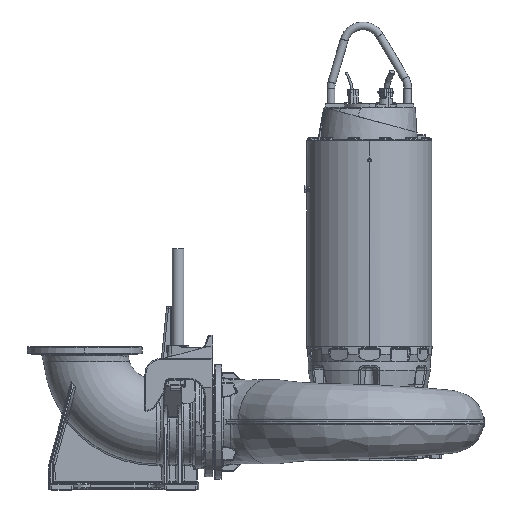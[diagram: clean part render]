
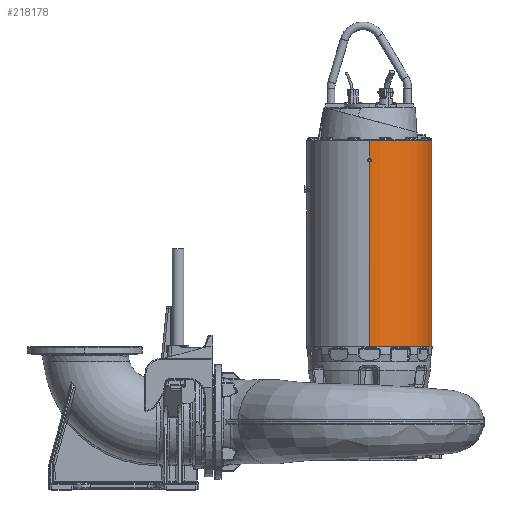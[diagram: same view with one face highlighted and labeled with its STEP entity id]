
A CAD part, top view. The second image highlights one B-rep face of the part: STEP entity #218178.
In plain terms, the highlighted cylindrical face has radius 322 mm (diameter 644 mm), a partial arc.
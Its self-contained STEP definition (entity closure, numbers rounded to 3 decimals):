
#10908 = CARTESIAN_POINT ( 'NONE',  ( 0., 1040., 322. ) ) ;
#12123 = CARTESIAN_POINT ( 'NONE',  ( 9.5, 945.485, 321.86 ) ) ;
#12270 = CARTESIAN_POINT ( 'NONE',  ( 0., -20., -322. ) ) ;
#17220 = DIRECTION ( 'NONE',  ( 0., -1., 0. ) ) ;
#20030 =( BOUNDED_CURVE ( )  B_SPLINE_CURVE ( 3, ( #270482, #35767, #250633, #107752 ),
 .UNSPECIFIED., .F., .F. ) 
 B_SPLINE_CURVE_WITH_KNOTS ( ( 4, 4 ),
 ( 1.571, 1.6 ),
 .UNSPECIFIED. ) 
 CURVE ( )  GEOMETRIC_REPRESENTATION_ITEM ( )  RATIONAL_B_SPLINE_CURVE ( ( 1., 1., 1., 1. ) ) 
 REPRESENTATION_ITEM ( '' )  );
#20149 = DIRECTION ( 'NONE',  ( 0., 0., -1. ) ) ;
#24479 = CARTESIAN_POINT ( 'NONE',  ( 9.5, 934.515, -321.86 ) ) ;
#31219 = VECTOR ( 'NONE', #174001, 1000. ) ;
#33915 = EDGE_CURVE ( 'NONE', #62103, #225753, #128674, .T. ) ;
#35767 = CARTESIAN_POINT ( 'NONE',  ( 3.167, 949.141, -322. ) ) ;
#37047 = VECTOR ( 'NONE', #17220, 1000. ) ;
#39786 = EDGE_CURVE ( 'NONE', #163464, #229225, #257529, .T. ) ;
#45477 = VECTOR ( 'NONE', #161988, 1000. ) ;
#48391 = CARTESIAN_POINT ( 'NONE',  ( 6.334, 932.687, -321.953 ) ) ;
#48560 = CARTESIAN_POINT ( 'NONE',  ( 9.5, 945.485, -321.86 ) ) ;
#50380 = CARTESIAN_POINT ( 'NONE',  ( 9.5, 934.515, 321.86 ) ) ;
#55255 = CARTESIAN_POINT ( 'NONE',  ( 0., 0., -322. ) ) ;
#58401 = LINE ( 'NONE', #295535, #114342 ) ;
#58677 = EDGE_LOOP ( 'NONE', ( #204906, #197452, #126521, #115195, #249933, #59584, #63180, #111622, #66770, #218719, #207356, #162347 ) ) ;
#59584 = ORIENTED_EDGE ( 'NONE', *, *, #241784, .T. ) ;
#62103 = VERTEX_POINT ( 'NONE', #253933 ) ;
#63180 = ORIENTED_EDGE ( 'NONE', *, *, #171702, .F. ) ;
#66770 = ORIENTED_EDGE ( 'NONE', *, *, #283749, .F. ) ;
#73392 = CARTESIAN_POINT ( 'NONE',  ( 6.334, 932.687, 321.953 ) ) ;
#80141 = VERTEX_POINT ( 'NONE', #48560 ) ;
#81580 =( BOUNDED_CURVE ( )  B_SPLINE_CURVE ( 3, ( #176734, #225888, #154743, #12123 ),
 .UNSPECIFIED., .F., .T. ) 
 B_SPLINE_CURVE_WITH_KNOTS ( ( 4, 4 ),
 ( 1.571, 1.6 ),
 .UNSPECIFIED. ) 
 CURVE ( )  GEOMETRIC_REPRESENTATION_ITEM ( )  RATIONAL_B_SPLINE_CURVE ( ( 1., 1., 1., 1. ) ) 
 REPRESENTATION_ITEM ( '' )  );
#85745 =( BOUNDED_CURVE ( )  B_SPLINE_CURVE ( 3, ( #24479, #48391, #263318, #120361 ),
 .UNSPECIFIED., .F., .F. ) 
 B_SPLINE_CURVE_WITH_KNOTS ( ( 4, 4 ),
 ( 1.541, 1.571 ),
 .UNSPECIFIED. ) 
 CURVE ( )  GEOMETRIC_REPRESENTATION_ITEM ( )  RATIONAL_B_SPLINE_CURVE ( ( 1., 1., 1., 1. ) ) 
 REPRESENTATION_ITEM ( '' )  );
#87764 = EDGE_CURVE ( 'NONE', #229225, #244058, #58401, .T. ) ;
#91793 = CIRCLE ( 'NONE', #187628, 322. ) ;
#95064 = VERTEX_POINT ( 'NONE', #12270 ) ;
#95569 = CARTESIAN_POINT ( 'NONE',  ( 0., 0., 322. ) ) ;
#100797 = DIRECTION ( 'NONE',  ( 0., -1., 0. ) ) ;
#106994 = CARTESIAN_POINT ( 'NONE',  ( 0., 0., -322. ) ) ;
#107752 = CARTESIAN_POINT ( 'NONE',  ( 9.5, 945.485, -321.86 ) ) ;
#108918 = LINE ( 'NONE', #138149, #45477 ) ;
#110847 = DIRECTION ( 'NONE',  ( 0., -1., 0. ) ) ;
#111622 = ORIENTED_EDGE ( 'NONE', *, *, #187780, .F. ) ;
#113996 = CARTESIAN_POINT ( 'NONE',  ( 0., 0., 0. ) ) ;
#114342 = VECTOR ( 'NONE', #110847, 1000. ) ;
#115195 = ORIENTED_EDGE ( 'NONE', *, *, #295654, .T. ) ;
#118709 = CARTESIAN_POINT ( 'NONE',  ( 0., -20., 322. ) ) ;
#119578 = DIRECTION ( 'NONE',  ( 0., -1., 0. ) ) ;
#120361 = CARTESIAN_POINT ( 'NONE',  ( 0., 929.03, -322. ) ) ;
#120412 = VERTEX_POINT ( 'NONE', #236574 ) ;
#126521 = ORIENTED_EDGE ( 'NONE', *, *, #247726, .T. ) ;
#128674 =( BOUNDED_CURVE ( )  B_SPLINE_CURVE ( 3, ( #50380, #73392, #145194, #217204 ),
 .UNSPECIFIED., .F., .F. ) 
 B_SPLINE_CURVE_WITH_KNOTS ( ( 4, 4 ),
 ( 1.541, 1.571 ),
 .UNSPECIFIED. ) 
 CURVE ( )  GEOMETRIC_REPRESENTATION_ITEM ( )  RATIONAL_B_SPLINE_CURVE ( ( 1., 1., 1., 1. ) ) 
 REPRESENTATION_ITEM ( '' )  );
#130568 = VERTEX_POINT ( 'NONE', #152860 ) ;
#131951 = VERTEX_POINT ( 'NONE', #118709 ) ;
#135512 = CARTESIAN_POINT ( 'NONE',  ( 0., 1040., -322. ) ) ;
#138149 = CARTESIAN_POINT ( 'NONE',  ( 9.5, 1180.349, 321.86 ) ) ;
#140830 = VECTOR ( 'NONE', #296783, 1000. ) ;
#141014 = DIRECTION ( 'NONE',  ( 0., -1., 0. ) ) ;
#145194 = CARTESIAN_POINT ( 'NONE',  ( 3.167, 930.859, 322. ) ) ;
#149756 = EDGE_CURVE ( 'NONE', #80141, #154904, #290825, .T. ) ;
#152860 = CARTESIAN_POINT ( 'NONE',  ( 0., 950.97, -322. ) ) ;
#154743 = CARTESIAN_POINT ( 'NONE',  ( 6.334, 947.313, 321.953 ) ) ;
#154904 = VERTEX_POINT ( 'NONE', #282112 ) ;
#156448 = VERTEX_POINT ( 'NONE', #239460 ) ;
#157848 = LINE ( 'NONE', #55255, #31219 ) ;
#159862 = CARTESIAN_POINT ( 'NONE',  ( 9.5, 1180.349, -321.86 ) ) ;
#161988 = DIRECTION ( 'NONE',  ( 0., -1., 0. ) ) ;
#162347 = ORIENTED_EDGE ( 'NONE', *, *, #197874, .F. ) ;
#163464 = VERTEX_POINT ( 'NONE', #135512 ) ;
#169564 = LINE ( 'NONE', #95569, #289068 ) ;
#171702 = EDGE_CURVE ( 'NONE', #95064, #131951, #91793, .T. ) ;
#174001 = DIRECTION ( 'NONE',  ( 0., -1., 0. ) ) ;
#176734 = CARTESIAN_POINT ( 'NONE',  ( 0., 950.97, 322. ) ) ;
#181777 = EDGE_CURVE ( 'NONE', #130568, #80141, #20030, .T. ) ;
#185014 = FACE_OUTER_BOUND ( 'NONE', #58677, .T. ) ;
#187628 = AXIS2_PLACEMENT_3D ( 'NONE', #243696, #100797, #267679 ) ;
#187780 = EDGE_CURVE ( 'NONE', #120412, #95064, #157848, .T. ) ;
#197452 = ORIENTED_EDGE ( 'NONE', *, *, #87764, .T. ) ;
#197874 = EDGE_CURVE ( 'NONE', #163464, #130568, #275247, .T. ) ;
#204906 = ORIENTED_EDGE ( 'NONE', *, *, #39786, .T. ) ;
#207356 = ORIENTED_EDGE ( 'NONE', *, *, #181777, .F. ) ;
#217204 = CARTESIAN_POINT ( 'NONE',  ( 0., 929.03, 322. ) ) ;
#218178 = ADVANCED_FACE ( 'NONE', ( #185014 ), #218570, .T. ) ;
#218570 = CYLINDRICAL_SURFACE ( 'NONE', #257369, 322. ) ;
#218719 = ORIENTED_EDGE ( 'NONE', *, *, #149756, .F. ) ;
#225753 = VERTEX_POINT ( 'NONE', #295633 ) ;
#225888 = CARTESIAN_POINT ( 'NONE',  ( 3.167, 949.141, 322. ) ) ;
#229225 = VERTEX_POINT ( 'NONE', #10908 ) ;
#236574 = CARTESIAN_POINT ( 'NONE',  ( 0., 929.03, -322. ) ) ;
#239460 = CARTESIAN_POINT ( 'NONE',  ( 9.5, 945.485, 321.86 ) ) ;
#241784 = EDGE_CURVE ( 'NONE', #225753, #131951, #169564, .T. ) ;
#243696 = CARTESIAN_POINT ( 'NONE',  ( 0., -20., 0. ) ) ;
#244058 = VERTEX_POINT ( 'NONE', #297717 ) ;
#245592 = AXIS2_PLACEMENT_3D ( 'NONE', #283937, #141014, #307912 ) ;
#247726 = EDGE_CURVE ( 'NONE', #244058, #156448, #81580, .T. ) ;
#249933 = ORIENTED_EDGE ( 'NONE', *, *, #33915, .T. ) ;
#250633 = CARTESIAN_POINT ( 'NONE',  ( 6.334, 947.313, -321.953 ) ) ;
#253933 = CARTESIAN_POINT ( 'NONE',  ( 9.5, 934.515, 321.86 ) ) ;
#256922 = DIRECTION ( 'NONE',  ( 0., -1., 0. ) ) ;
#257369 = AXIS2_PLACEMENT_3D ( 'NONE', #113996, #256922, #20149 ) ;
#257529 = CIRCLE ( 'NONE', #245592, 322. ) ;
#263318 = CARTESIAN_POINT ( 'NONE',  ( 3.167, 930.859, -322. ) ) ;
#267679 = DIRECTION ( 'NONE',  ( 1., 0., 0. ) ) ;
#270482 = CARTESIAN_POINT ( 'NONE',  ( 0., 950.97, -322. ) ) ;
#275247 = LINE ( 'NONE', #106994, #140830 ) ;
#282112 = CARTESIAN_POINT ( 'NONE',  ( 9.5, 934.515, -321.86 ) ) ;
#283749 = EDGE_CURVE ( 'NONE', #154904, #120412, #85745, .T. ) ;
#283937 = CARTESIAN_POINT ( 'NONE',  ( 0., 1040., 0. ) ) ;
#289068 = VECTOR ( 'NONE', #119578, 1000. ) ;
#290825 = LINE ( 'NONE', #159862, #37047 ) ;
#295535 = CARTESIAN_POINT ( 'NONE',  ( 0., 0., 322. ) ) ;
#295633 = CARTESIAN_POINT ( 'NONE',  ( 0., 929.03, 322. ) ) ;
#295654 = EDGE_CURVE ( 'NONE', #156448, #62103, #108918, .T. ) ;
#296783 = DIRECTION ( 'NONE',  ( 0., -1., 0. ) ) ;
#297717 = CARTESIAN_POINT ( 'NONE',  ( 0., 950.97, 322. ) ) ;
#307912 = DIRECTION ( 'NONE',  ( 0., 0., -1. ) ) ;
